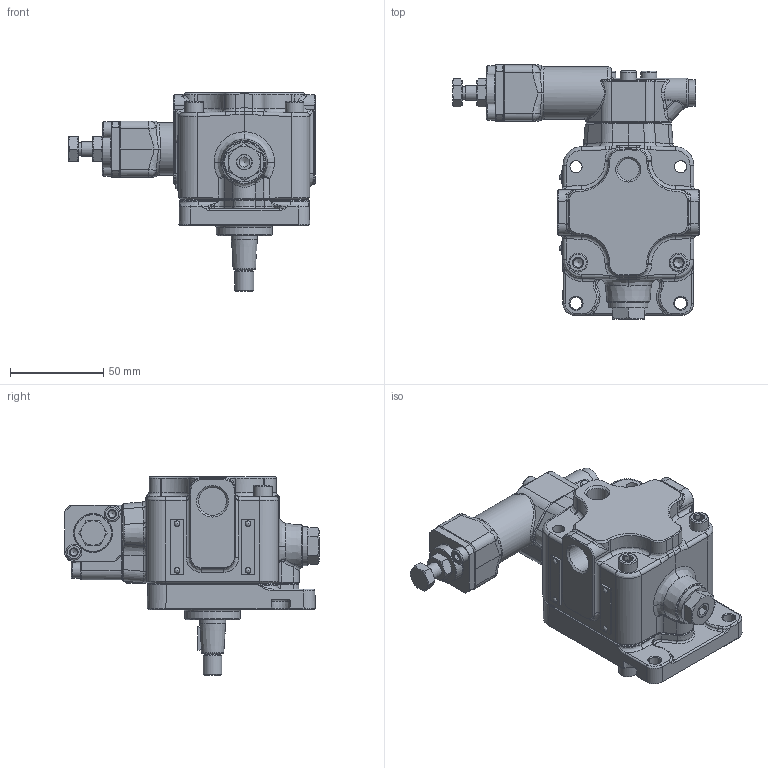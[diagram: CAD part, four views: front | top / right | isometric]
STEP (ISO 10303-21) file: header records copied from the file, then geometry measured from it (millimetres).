
FILE_DESCRIPTION(/* description */ (''),/* implementation_level */ '2;1');
FILE_NAME(/* name */ 'W:\Tecnico\A-Archivio\Modelli 3D\23\2300811010_Semplifica_1.stp',/* time_stamp */ '2022-04-13T13:38:28+02:00',/* author */ ('marcop'),/* organization */ (''),/* preprocessor_version */ 'ST-DEVELOPER v18.1',/* originating_system */ 'Autodesk Inventor 2022',/* authorisation */ '');
FILE_SCHEMA (('AUTOMOTIVE_DESIGN { 1 0 10303 214 3 1 1 }'));
Products named in the file (1): 2300811010_Semplifica_1
Bounding box: 132 x 136 x 106 mm (x, y, z)
Volume: 442836.3 mm3; surface area: 62380.4 mm2
Topology: 1 solids, 1 shells, 1093 faces, 2636 edges, 1580 vertices
Faces by surface type: plane 426, bspline 249, cylinder 190, cone 186, torus 32, sphere 10
Full cylindrical faces by diameter (mm): 2 x2, 4.917 x2, 5 x3, 5.5 x3, 6 x2, 6.5 x9, 8 x1, 8.376 x1, 8.5 x5, 10 x3, 11.445 x1, 14 x3, 14.95 x2, 16 x1, 20 x2, 21 x1, 22 x2, 22.8 x1, 28 x1, 30 x1
Entity records: 55648 total; most frequent: CARTESIAN_POINT 30874, ORIENTED_EDGE 5246, DIRECTION 4473, EDGE_CURVE 2623, AXIS2_PLACEMENT_3D 1649, VERTEX_POINT 1580, LINE 1175, VECTOR 1175
